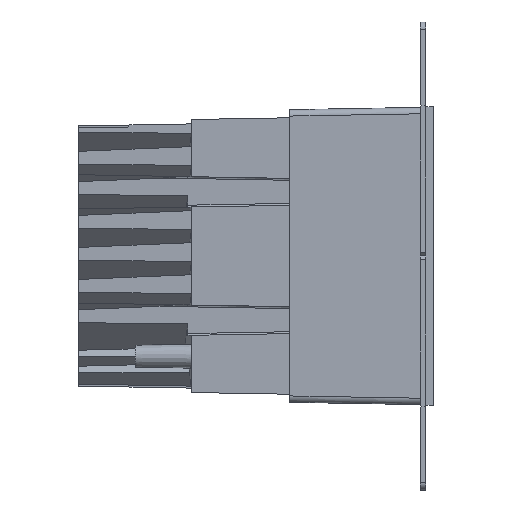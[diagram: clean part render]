
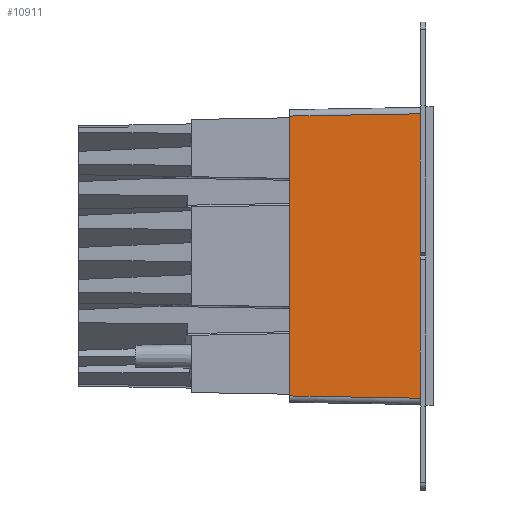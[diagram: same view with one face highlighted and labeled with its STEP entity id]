
A CAD part, left-side view. The second image highlights one B-rep face of the part: STEP entity #10911.
In plain terms, the highlighted planar face has unit normal (-1, 0.018, 0).
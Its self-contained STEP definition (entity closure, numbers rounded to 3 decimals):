
#3225 = AXIS2_PLACEMENT_3D ( 'NONE', #25887, #5971, #35339 ) ;
#5971 = DIRECTION ( 'NONE',  ( 1., -0.017, 0. ) ) ;
#10911 = ADVANCED_FACE ( 'NONE', ( #25569 ), #59309, .F. ) ;
#10993 = DIRECTION ( 'NONE',  ( -0.017, -1., -0.017 ) ) ;
#12591 = VERTEX_POINT ( 'NONE', #49668 ) ;
#15106 = ORIENTED_EDGE ( 'NONE', *, *, #61208, .T. ) ;
#15570 = VECTOR ( 'NONE', #53150, 1000. ) ;
#16045 = LINE ( 'NONE', #35018, #43100 ) ;
#16161 = ORIENTED_EDGE ( 'NONE', *, *, #56915, .F. ) ;
#21467 = ORIENTED_EDGE ( 'NONE', *, *, #53002, .T. ) ;
#21520 = VECTOR ( 'NONE', #33185, 1000. ) ;
#23104 = CARTESIAN_POINT ( 'NONE',  ( -39.379, 3.5, 62. ) ) ;
#25516 = CARTESIAN_POINT ( 'NONE',  ( -39.379, 3.5, -37.679 ) ) ;
#25569 = FACE_OUTER_BOUND ( 'NONE', #42634, .T. ) ;
#25887 = CARTESIAN_POINT ( 'NONE',  ( -38.776, 38., 62. ) ) ;
#26040 = LINE ( 'NONE', #45307, #45124 ) ;
#26246 = CARTESIAN_POINT ( 'NONE',  ( -39.379, 3.5, 37.679 ) ) ;
#26985 = CARTESIAN_POINT ( 'NONE',  ( -38.777, 37.97, 37.077 ) ) ;
#27593 = VERTEX_POINT ( 'NONE', #25516 ) ;
#28772 = LINE ( 'NONE', #23104, #21520 ) ;
#30500 = ORIENTED_EDGE ( 'NONE', *, *, #56485, .T. ) ;
#33185 = DIRECTION ( 'NONE',  ( 0., 0., -1. ) ) ;
#35018 = CARTESIAN_POINT ( 'NONE',  ( -39.379, 3.47, -37.679 ) ) ;
#35339 = DIRECTION ( 'NONE',  ( 0.017, 1., 0. ) ) ;
#40760 = CARTESIAN_POINT ( 'NONE',  ( -38.776, 38., -37.077 ) ) ;
#42634 = EDGE_LOOP ( 'NONE', ( #16161, #30500, #21467, #15106 ) ) ;
#43100 = VECTOR ( 'NONE', #10993, 1000. ) ;
#45124 = VECTOR ( 'NONE', #50960, 1000. ) ;
#45307 = CARTESIAN_POINT ( 'NONE',  ( -38.776, 38., 62. ) ) ;
#49668 = CARTESIAN_POINT ( 'NONE',  ( -38.776, 38., 37.077 ) ) ;
#50960 = DIRECTION ( 'NONE',  ( 0., 0., -1. ) ) ;
#50984 = LINE ( 'NONE', #26985, #15570 ) ;
#51609 = VERTEX_POINT ( 'NONE', #26246 ) ;
#53002 = EDGE_CURVE ( 'NONE', #12591, #58354, #26040, .T. ) ;
#53150 = DIRECTION ( 'NONE',  ( 0.017, 1., -0.017 ) ) ;
#56485 = EDGE_CURVE ( 'NONE', #51609, #12591, #50984, .T. ) ;
#56915 = EDGE_CURVE ( 'NONE', #51609, #27593, #28772, .T. ) ;
#58354 = VERTEX_POINT ( 'NONE', #40760 ) ;
#59309 = PLANE ( 'NONE',  #3225 ) ;
#61208 = EDGE_CURVE ( 'NONE', #58354, #27593, #16045, .T. ) ;
